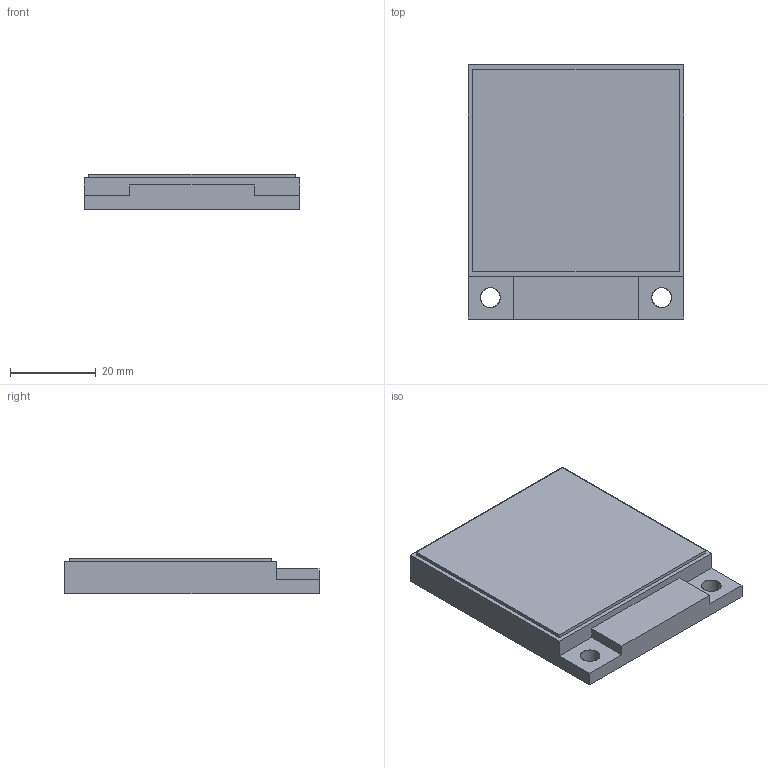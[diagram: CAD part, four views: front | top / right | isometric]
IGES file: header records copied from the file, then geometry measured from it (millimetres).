
Start section: SolidWorks IGES file using analytic representation for surfaces
Global section: file name: C:\catalog\RF-230.IGS; native system: SolidWorks 2005 by SolidWorks Corporation; preprocessor: SolidWorks 2005 by SolidWorks Corporation; author: yk0651; date: 070801.141023; units: millimetre
Bounding box: 50.3 x 59.3 x 8.3 mm (x, y, z)
Surface area: 11970.5 mm2 (no closed solid volume)
Topology: 0 solids, 0 shells, 27 faces, 252 edges, 252 vertices
Faces by surface type: bspline 23, revolution 4
